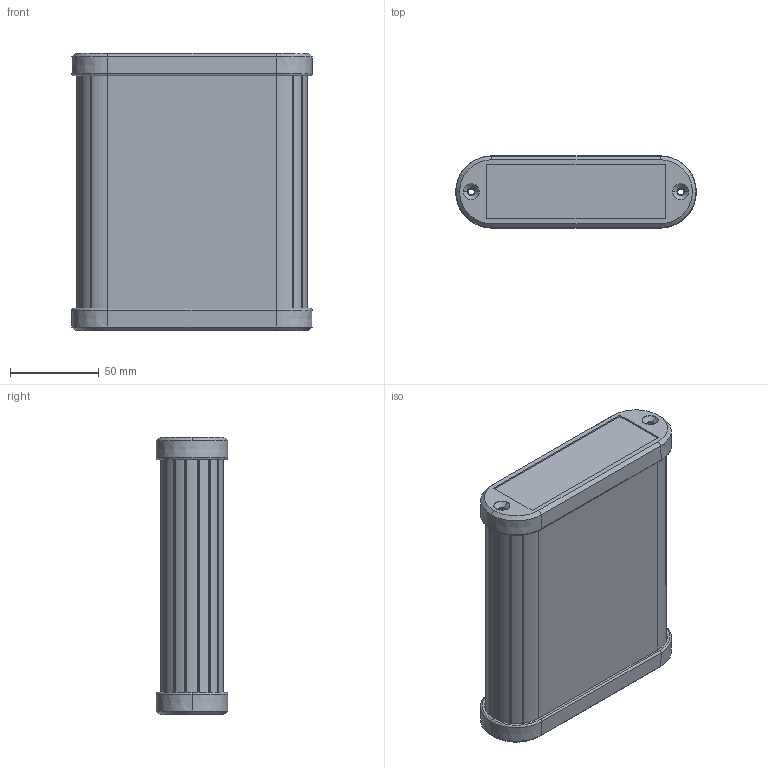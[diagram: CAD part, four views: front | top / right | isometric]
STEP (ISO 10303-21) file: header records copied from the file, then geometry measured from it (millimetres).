
FILE_DESCRIPTION (( 'STEP AP203' ), '1' );
FILE_NAME ('AL-130-35-B.STEP', '2024-12-04T11:50:33', ( '' ), ( '' ), 'SwSTEP 2.0', 'SolidWorks 2021', '' );
FILE_SCHEMA (( 'CONFIG_CONTROL_DESIGN' ));
Length unit declared in the file: millimetre
Products named in the file (3): AL-130-35-0; AL-130-35-B; AL-130-30-20
Assembly tree (3 placements, depth 2):
  AL-130-35-B
    AL-130-35-0
    AL-130-30-20  x2
Bounding box: 135.46 x 40.46 x 156 mm (x, y, z)
Volume: 130306.7 mm3; surface area: 132245.3 mm2
Topology: 3 solids, 3 shells, 260 faces, 710 edges, 462 vertices
Faces by surface type: cylinder 138, plane 76, cone 40, torus 6
Entity records: 7399 total; most frequent: DIRECTION 1342, CARTESIAN_POINT 1221, ORIENTED_EDGE 1208, EDGE_CURVE 604, AXIS2_PLACEMENT_3D 518, VERTEX_POINT 397, LINE 306, VECTOR 306
